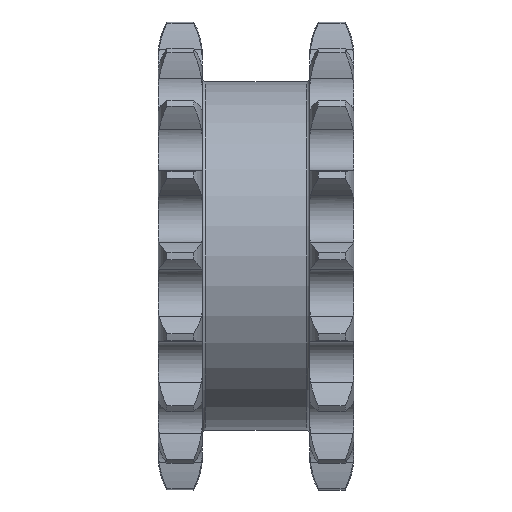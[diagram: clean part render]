
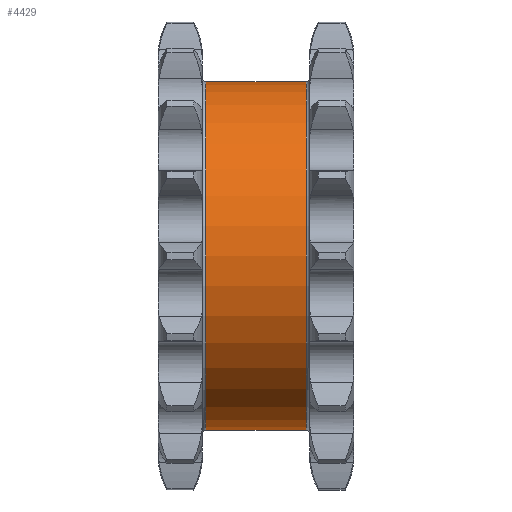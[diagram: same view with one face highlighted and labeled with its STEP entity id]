
A CAD part, front view. The second image highlights one B-rep face of the part: STEP entity #4429.
In plain terms, the highlighted cylindrical face has radius 28.5 mm (diameter 57 mm), a full revolution.
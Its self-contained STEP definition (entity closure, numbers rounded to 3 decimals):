
#18=FACE_BOUND('',#892,.T.);
#657=FACE_OUTER_BOUND('',#891,.T.);
#891=EDGE_LOOP('',(#3951));
#892=EDGE_LOOP('',(#3952));
#1427=CIRCLE('',#4890,28.5);
#1428=CIRCLE('',#4892,28.5);
#1917=VERTEX_POINT('',#8988);
#1918=VERTEX_POINT('',#8991);
#2627=EDGE_CURVE('',#1917,#1917,#1427,.T.);
#2628=EDGE_CURVE('',#1918,#1918,#1428,.T.);
#3951=ORIENTED_EDGE('',*,*,#2627,.T.);
#3952=ORIENTED_EDGE('',*,*,#2628,.F.);
#4205=CYLINDRICAL_SURFACE('',#4891,28.5);
#4429=ADVANCED_FACE('',(#657,#18),#4205,.T.);
#4890=AXIS2_PLACEMENT_3D('',#8989,#5955,#5956);
#4891=AXIS2_PLACEMENT_3D('',#8990,#5957,#5958);
#4892=AXIS2_PLACEMENT_3D('',#8992,#5959,#5960);
#5955=DIRECTION('center_axis',(1.,0.,0.));
#5956=DIRECTION('ref_axis',(0.,0.,-1.));
#5957=DIRECTION('center_axis',(1.,0.,0.));
#5958=DIRECTION('ref_axis',(0.,1.,0.));
#5959=DIRECTION('center_axis',(1.,0.,0.));
#5960=DIRECTION('ref_axis',(0.,0.,-1.));
#8988=CARTESIAN_POINT('',(-3.216,44.942,0.));
#8989=CARTESIAN_POINT('Origin',(-3.216,16.442,0.));
#8990=CARTESIAN_POINT('Origin',(4.984,16.442,0.));
#8991=CARTESIAN_POINT('',(13.184,44.942,0.));
#8992=CARTESIAN_POINT('Origin',(13.184,16.442,0.));
